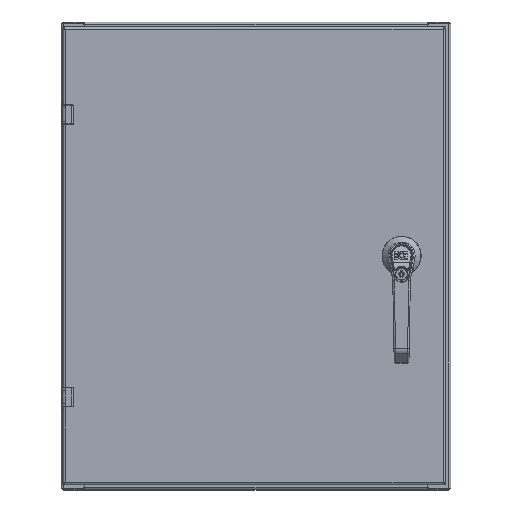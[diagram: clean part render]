
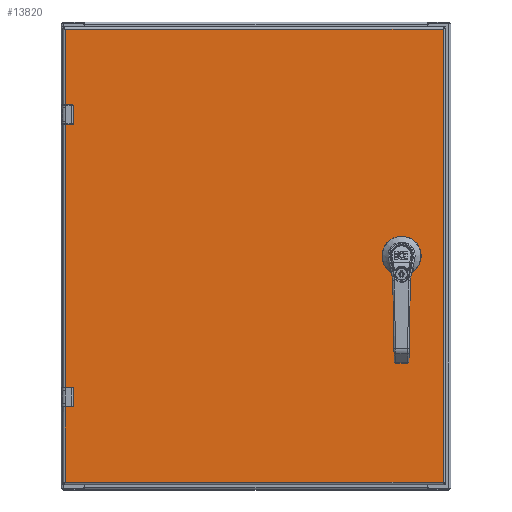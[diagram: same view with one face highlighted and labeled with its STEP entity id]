
A CAD part, top view. The second image highlights one B-rep face of the part: STEP entity #13820.
In plain terms, the highlighted planar face has unit normal (0, 0, 1).
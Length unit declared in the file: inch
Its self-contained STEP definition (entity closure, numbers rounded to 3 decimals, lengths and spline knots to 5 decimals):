
#10393=CARTESIAN_POINT('',(7.5625,-1.09,0.));
#10394=DIRECTION('',(0.,0.,1.));
#10395=DIRECTION('',(-1.,0.,0.));
#10396=AXIS2_PLACEMENT_3D('',#10393,#10394,#10395);
#10401=CARTESIAN_POINT('',(7.5625,-1.09,0.));
#10402=DIRECTION('',(0.,0.,1.));
#10403=DIRECTION('',(1.,0.,0.));
#10404=AXIS2_PLACEMENT_3D('',#10401,#10402,#10403);
#10409=DIRECTION('',(1.,0.,0.));
#10410=VECTOR('',#10409,0.39715);
#10411=CARTESIAN_POINT('',(7.36392,0.396,0.));
#10412=LINE('',#10411,#10410);
#10416=CARTESIAN_POINT('',(7.5625,0.,0.));
#10417=DIRECTION('',(0.,0.,1.));
#10418=DIRECTION('',(-0.448,0.894,0.));
#10419=AXIS2_PLACEMENT_3D('',#10416,#10417,#10418);
#10424=DIRECTION('',(0.,1.,0.));
#10425=VECTOR('',#10424,0.39715);
#10426=CARTESIAN_POINT('',(7.1665,-0.19858,0.));
#10427=LINE('',#10426,#10425);
#10431=CARTESIAN_POINT('',(7.5625,0.,0.));
#10432=DIRECTION('',(0.,0.,1.));
#10433=DIRECTION('',(-0.894,-0.448,0.));
#10434=AXIS2_PLACEMENT_3D('',#10431,#10432,#10433);
#10439=DIRECTION('',(-1.,0.,0.));
#10440=VECTOR('',#10439,0.39715);
#10441=CARTESIAN_POINT('',(7.76108,-0.396,0.));
#10442=LINE('',#10441,#10440);
#10446=CARTESIAN_POINT('',(7.5625,0.,0.));
#10447=DIRECTION('',(0.,0.,1.));
#10448=DIRECTION('',(0.448,-0.894,0.));
#10449=AXIS2_PLACEMENT_3D('',#10446,#10447,#10448);
#10454=DIRECTION('',(0.,-1.,0.));
#10455=VECTOR('',#10454,0.39715);
#10456=CARTESIAN_POINT('',(7.9585,0.19858,0.));
#10457=LINE('',#10456,#10455);
#10461=CARTESIAN_POINT('',(7.5625,0.,0.));
#10462=DIRECTION('',(0.,0.,1.));
#10463=DIRECTION('',(0.894,0.448,0.));
#10464=AXIS2_PLACEMENT_3D('',#10461,#10462,#10463);
#10469=DIRECTION('',(1.,0.,0.));
#10470=VECTOR('',#10469,0.363);
#10471=CARTESIAN_POINT('',(-9.6955,-7.595,0.));
#10472=LINE('',#10471,#10470);
#10476=DIRECTION('',(0.,-1.,0.));
#10477=VECTOR('',#10476,0.63);
#10478=CARTESIAN_POINT('',(-9.3025,-6.935,0.));
#10479=LINE('',#10478,#10477);
#10483=DIRECTION('',(1.,0.,0.));
#10484=VECTOR('',#10483,0.363);
#10485=CARTESIAN_POINT('',(-9.6955,-6.905,0.));
#10486=LINE('',#10485,#10484);
#10490=DIRECTION('',(1.,0.,0.));
#10491=VECTOR('',#10490,0.363);
#10492=CARTESIAN_POINT('',(-9.6955,6.905,0.));
#10493=LINE('',#10492,#10491);
#10497=DIRECTION('',(0.,-1.,0.));
#10498=VECTOR('',#10497,0.63);
#10499=CARTESIAN_POINT('',(-9.3025,7.565,0.));
#10500=LINE('',#10499,#10498);
#10504=DIRECTION('',(1.,0.,0.));
#10505=VECTOR('',#10504,0.363);
#10506=CARTESIAN_POINT('',(-9.6955,7.595,0.));
#10507=LINE('',#10506,#10505);
#11056=DIRECTION('',(0.,-1.,0.));
#11057=VECTOR('',#11056,23.266);
#11058=CARTESIAN_POINT('',(9.6955,11.633,0.));
#11059=LINE('',#11058,#11057);
#11131=DIRECTION('',(1.,0.,0.));
#11132=VECTOR('',#11131,19.391);
#11133=CARTESIAN_POINT('',(-9.6955,11.633,0.));
#11134=LINE('',#11133,#11132);
#11249=DIRECTION('',(0.,1.,0.));
#11250=VECTOR('',#11249,13.81);
#11251=CARTESIAN_POINT('',(-9.6955,-6.905,0.));
#11252=LINE('',#11251,#11250);
#11256=CARTESIAN_POINT('',(-9.6955,11.633,0.));
#11296=DIRECTION('',(0.,1.,0.));
#11297=VECTOR('',#11296,4.038);
#11298=CARTESIAN_POINT('',(-9.6955,7.595,0.));
#11299=LINE('',#11298,#11297);
#11357=DIRECTION('',(0.,1.,0.));
#11358=VECTOR('',#11357,4.038);
#11359=CARTESIAN_POINT('',(-9.6955,-11.633,0.));
#11360=LINE('',#11359,#11358);
#11394=CARTESIAN_POINT('',(-9.3325,-6.935,0.));
#11395=DIRECTION('',(0.,0.,-1.));
#11396=DIRECTION('',(0.,1.,0.));
#11397=AXIS2_PLACEMENT_3D('',#11394,#11395,#11396);
#11424=CARTESIAN_POINT('',(-9.3325,-7.565,0.));
#11425=DIRECTION('',(0.,0.,-1.));
#11426=DIRECTION('',(1.,0.,0.));
#11427=AXIS2_PLACEMENT_3D('',#11424,#11425,#11426);
#11826=DIRECTION('',(-1.,0.,0.));
#11827=VECTOR('',#11826,19.391);
#11828=CARTESIAN_POINT('',(9.6955,-11.633,0.));
#11829=LINE('',#11828,#11827);
#12193=CARTESIAN_POINT('',(-9.3325,7.565,0.));
#12194=DIRECTION('',(0.,0.,-1.));
#12195=DIRECTION('',(0.,1.,0.));
#12196=AXIS2_PLACEMENT_3D('',#12193,#12194,#12195);
#12223=CARTESIAN_POINT('',(-9.3325,6.935,0.));
#12224=DIRECTION('',(0.,0.,-1.));
#12225=DIRECTION('',(1.,0.,0.));
#12226=AXIS2_PLACEMENT_3D('',#12223,#12224,#12225);
#13343=CARTESIAN_POINT('',(9.6955,11.633,0.));
#13344=CARTESIAN_POINT('',(9.6955,-11.633,0.));
#13345=VERTEX_POINT('',#13343);
#13346=VERTEX_POINT('',#13344);
#13525=VERTEX_POINT('',#11256);
#13530=CARTESIAN_POINT('',(-9.6955,-11.633,0.));
#13532=VERTEX_POINT('',#13530);
#13605=CARTESIAN_POINT('',(7.4375,-1.09,0.));
#13606=CARTESIAN_POINT('',(7.6875,-1.09,0.));
#13607=VERTEX_POINT('',#13605);
#13608=VERTEX_POINT('',#13606);
#13609=CARTESIAN_POINT('',(7.36392,0.396,0.));
#13610=CARTESIAN_POINT('',(7.76108,0.396,0.));
#13611=VERTEX_POINT('',#13609);
#13612=VERTEX_POINT('',#13610);
#13613=CARTESIAN_POINT('',(7.9585,0.19858,0.));
#13614=VERTEX_POINT('',#13613);
#13615=CARTESIAN_POINT('',(7.9585,-0.19858,0.));
#13616=VERTEX_POINT('',#13615);
#13617=CARTESIAN_POINT('',(7.76108,-0.396,0.));
#13618=VERTEX_POINT('',#13617);
#13619=CARTESIAN_POINT('',(7.36392,-0.396,0.));
#13620=VERTEX_POINT('',#13619);
#13621=CARTESIAN_POINT('',(7.1665,-0.19858,0.));
#13622=VERTEX_POINT('',#13621);
#13623=CARTESIAN_POINT('',(7.1665,0.19858,0.));
#13624=VERTEX_POINT('',#13623);
#13661=CARTESIAN_POINT('',(-9.6955,6.905,0.));
#13663=VERTEX_POINT('',#13661);
#13665=CARTESIAN_POINT('',(-9.6955,7.595,0.));
#13667=VERTEX_POINT('',#13665);
#13677=CARTESIAN_POINT('',(-9.6955,-7.595,0.));
#13679=VERTEX_POINT('',#13677);
#13681=CARTESIAN_POINT('',(-9.6955,-6.905,0.));
#13683=VERTEX_POINT('',#13681);
#13693=CARTESIAN_POINT('',(-9.3325,7.595,0.));
#13695=VERTEX_POINT('',#13693);
#13697=CARTESIAN_POINT('',(-9.3025,7.565,0.));
#13699=VERTEX_POINT('',#13697);
#13701=CARTESIAN_POINT('',(-9.3025,6.935,0.));
#13703=VERTEX_POINT('',#13701);
#13705=CARTESIAN_POINT('',(-9.3325,6.905,0.));
#13707=VERTEX_POINT('',#13705);
#13733=CARTESIAN_POINT('',(-9.3025,-7.565,0.));
#13735=VERTEX_POINT('',#13733);
#13737=CARTESIAN_POINT('',(-9.3325,-7.595,0.));
#13739=VERTEX_POINT('',#13737);
#13741=CARTESIAN_POINT('',(-9.3325,-6.905,0.));
#13743=VERTEX_POINT('',#13741);
#13745=CARTESIAN_POINT('',(-9.3025,-6.935,0.));
#13747=VERTEX_POINT('',#13745);
#13757=CARTESIAN_POINT('',(0.,0.,0.));
#13758=DIRECTION('',(0.,0.,-1.));
#13759=DIRECTION('',(1.,0.,0.));
#13760=AXIS2_PLACEMENT_3D('',#13757,#13758,#13759);
#13761=PLANE('',#13760);
#13763=ORIENTED_EDGE('',*,*,#13762,.T.);
#13765=ORIENTED_EDGE('',*,*,#13764,.T.);
#13767=ORIENTED_EDGE('',*,*,#13766,.T.);
#13769=ORIENTED_EDGE('',*,*,#13768,.F.);
#13771=ORIENTED_EDGE('',*,*,#13770,.F.);
#13773=ORIENTED_EDGE('',*,*,#13772,.F.);
#13775=ORIENTED_EDGE('',*,*,#13774,.F.);
#13777=ORIENTED_EDGE('',*,*,#13776,.T.);
#13779=ORIENTED_EDGE('',*,*,#13778,.T.);
#13781=ORIENTED_EDGE('',*,*,#13780,.F.);
#13783=ORIENTED_EDGE('',*,*,#13782,.F.);
#13785=ORIENTED_EDGE('',*,*,#13784,.F.);
#13787=ORIENTED_EDGE('',*,*,#13786,.F.);
#13789=ORIENTED_EDGE('',*,*,#13788,.T.);
#13791=ORIENTED_EDGE('',*,*,#13790,.T.);
#13793=ORIENTED_EDGE('',*,*,#13792,.T.);
#13794=EDGE_LOOP('',(#13763,#13765,#13767,#13769,#13771,#13773,#13775,#13777,
#13779,#13781,#13783,#13785,#13787,#13789,#13791,#13793));
#13795=FACE_OUTER_BOUND('',#13794,.F.);
#13797=ORIENTED_EDGE('',*,*,#13796,.F.);
#13799=ORIENTED_EDGE('',*,*,#13798,.T.);
#13801=ORIENTED_EDGE('',*,*,#13800,.F.);
#13803=ORIENTED_EDGE('',*,*,#13802,.T.);
#13805=ORIENTED_EDGE('',*,*,#13804,.F.);
#13807=ORIENTED_EDGE('',*,*,#13806,.T.);
#13809=ORIENTED_EDGE('',*,*,#13808,.F.);
#13811=ORIENTED_EDGE('',*,*,#13810,.T.);
#13812=EDGE_LOOP('',(#13797,#13799,#13801,#13803,#13805,#13807,#13809,#13811));
#13813=FACE_BOUND('',#13812,.F.);
#13815=ORIENTED_EDGE('',*,*,#13814,.T.);
#13817=ORIENTED_EDGE('',*,*,#13816,.T.);
#13818=EDGE_LOOP('',(#13815,#13817));
#13819=FACE_BOUND('',#13818,.F.);
#10397=CIRCLE('',#10396,0.125);
#10405=CIRCLE('',#10404,0.125);
#10420=CIRCLE('',#10419,0.443);
#10435=CIRCLE('',#10434,0.443);
#10450=CIRCLE('',#10449,0.443);
#10465=CIRCLE('',#10464,0.443);
#11398=CIRCLE('',#11397,0.03);
#11428=CIRCLE('',#11427,0.03);
#12197=CIRCLE('',#12196,0.03);
#12227=CIRCLE('',#12226,0.03);
#13762=EDGE_CURVE('',#13346,#13532,#11829,.T.);
#13764=EDGE_CURVE('',#13532,#13679,#11360,.T.);
#13766=EDGE_CURVE('',#13679,#13739,#10472,.T.);
#13768=EDGE_CURVE('',#13735,#13739,#11428,.T.);
#13770=EDGE_CURVE('',#13747,#13735,#10479,.T.);
#13772=EDGE_CURVE('',#13743,#13747,#11398,.T.);
#13774=EDGE_CURVE('',#13683,#13743,#10486,.T.);
#13776=EDGE_CURVE('',#13683,#13663,#11252,.T.);
#13778=EDGE_CURVE('',#13663,#13707,#10493,.T.);
#13780=EDGE_CURVE('',#13703,#13707,#12227,.T.);
#13782=EDGE_CURVE('',#13699,#13703,#10500,.T.);
#13784=EDGE_CURVE('',#13695,#13699,#12197,.T.);
#13786=EDGE_CURVE('',#13667,#13695,#10507,.T.);
#13788=EDGE_CURVE('',#13667,#13525,#11299,.T.);
#13790=EDGE_CURVE('',#13525,#13345,#11134,.T.);
#13792=EDGE_CURVE('',#13345,#13346,#11059,.T.);
#13796=EDGE_CURVE('',#13611,#13612,#10412,.T.);
#13798=EDGE_CURVE('',#13611,#13624,#10420,.T.);
#13800=EDGE_CURVE('',#13622,#13624,#10427,.T.);
#13802=EDGE_CURVE('',#13622,#13620,#10435,.T.);
#13804=EDGE_CURVE('',#13618,#13620,#10442,.T.);
#13806=EDGE_CURVE('',#13618,#13616,#10450,.T.);
#13808=EDGE_CURVE('',#13614,#13616,#10457,.T.);
#13810=EDGE_CURVE('',#13614,#13612,#10465,.T.);
#13814=EDGE_CURVE('',#13607,#13608,#10397,.T.);
#13816=EDGE_CURVE('',#13608,#13607,#10405,.T.);
#13820=ADVANCED_FACE('',(#13795,#13813,#13819),#13761,.F.);
